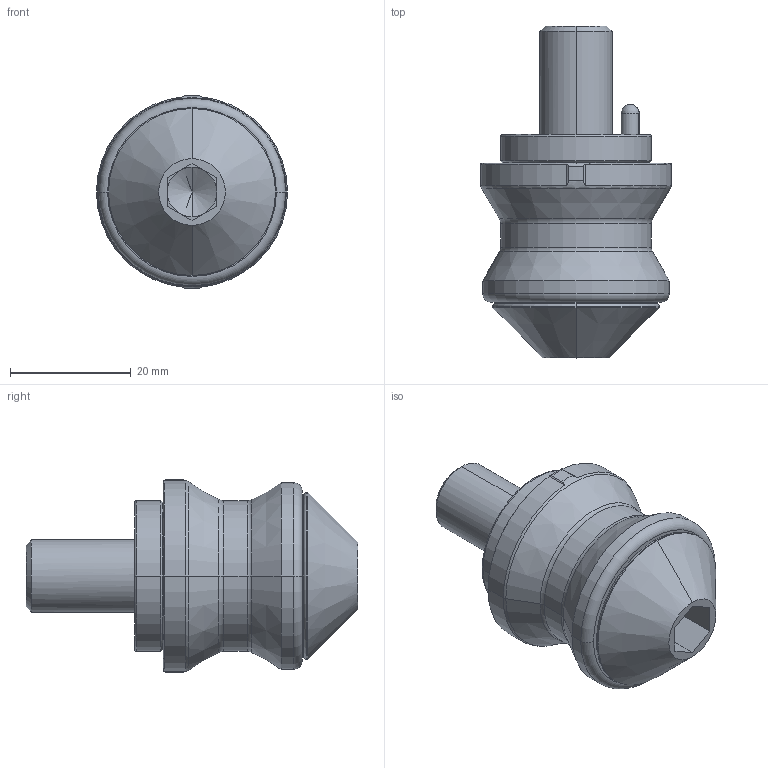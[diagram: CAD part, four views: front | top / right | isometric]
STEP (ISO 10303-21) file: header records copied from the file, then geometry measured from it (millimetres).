
FILE_DESCRIPTION (( 'STEP AP214' ), '1' );
FILE_NAME ('DXJT-20.STEP', '2023-11-13T02:30:38', ( '' ), ( '' ), 'SwSTEP 2.0', 'SolidWorks 2018', '' );
FILE_SCHEMA (( 'AUTOMOTIVE_DESIGN' ));
Length unit declared in the file: millimetre
Products named in the file (1): DXJT-20
Bounding box: 31.7 x 55.06 x 31.99 mm (x, y, z)
Volume: 21474.9 mm3; surface area: 7497.4 mm2
Topology: 2 solids, 2 shells, 174 faces, 418 edges, 257 vertices
Faces by surface type: plane 71, cylinder 38, cone 26, torus 20, bspline 17, sphere 2
Entity records: 10098 total; most frequent: CARTESIAN_POINT 4288, ORIENTED_EDGE 822, DIRECTION 782, EDGE_CURVE 411, AXIS2_PLACEMENT_3D 276, VERTEX_POINT 256, LINE 230, VECTOR 230
